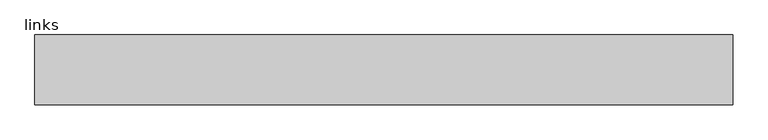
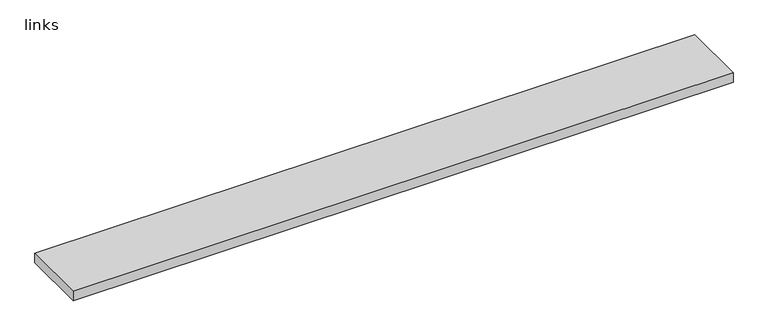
"""IFC4 building model written with IfcOpenShell, lengths in millimetres: proxy geometry, 400_35_NS_betonstrook : links."""

from ifc_helpers import new_model, si_unit, origin, origin_with_axes, place, context, project, spatial, polyline, outline, extrude, source, transform, mapped, element, save


def links_18fe3aea(model_context):
    return source(origin(), model_context, "Body", "SweptSolid", [
        extrude(outline(polyline([(-1000.0, 0.0), (-1000.0, 200.0), (1000.0, 200.0), (1000.0, 0.0), (-1000.0, 0.0)])), origin_with_axes(), (0.0, 0.0, 1.0), 30.0),
    ])


if __name__ == "__main__":
    model = new_model("IFC4")
    model_context = context("Model", 3, world=origin())
    ifc_project = project(units=[si_unit("LENGTHUNIT", "METRE", prefix="MILLI")], contexts=[model_context])
    site = spatial("IfcSite", under=ifc_project)
    building = spatial("IfcBuilding", under=site)
    placement = place(None, origin())
    links_shape = links_18fe3aea(model_context)
    element("IfcBuildingElementProxy", 1, Name="400_35_NS_betonstrook : links", ObjectType="400_35_NS_betonstrook : links", at=placement, inside=building, context=model_context, shape_type="MappedRepresentation", body=[
        mapped(links_shape, transform((0.0, 0.0, 0.0), x_axis=(1.0, 0.0, 0.0), y_axis=(0.0, 1.0, 0.0), z_axis=(0.0, 0.0, 1.0))),
    ])
    save(model, "model.ifc")
